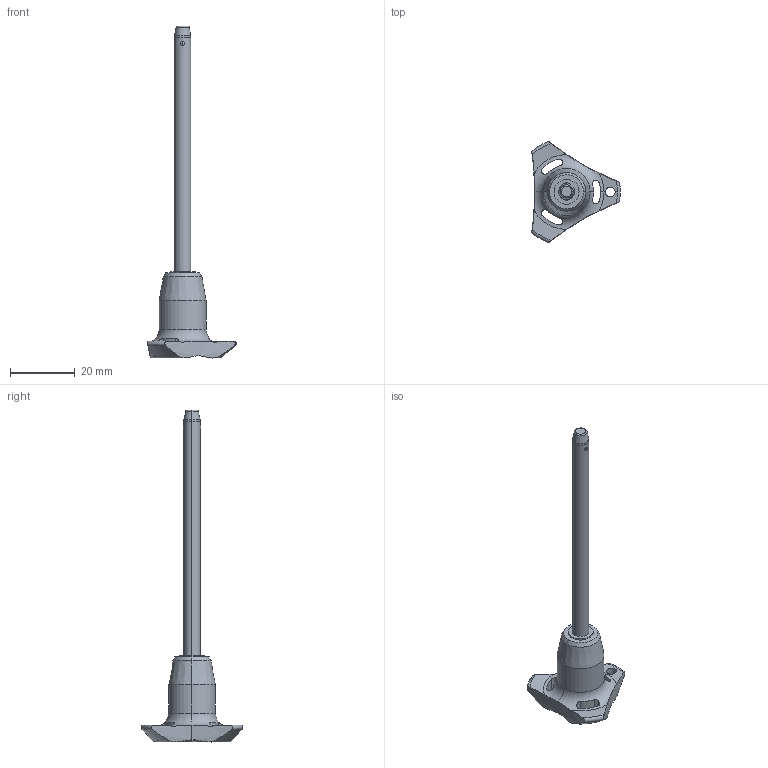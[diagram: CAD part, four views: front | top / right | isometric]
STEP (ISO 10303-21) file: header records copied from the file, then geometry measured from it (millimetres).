
FILE_DESCRIPTION (( 'STEP AP203' ), '1' );
FILE_NAME ('QR1736.M05-070-T.step', '2025-11-13T11:49:04', ( '' ), ( '' ), 'SwSTEP 2.0', 'SolidWorks 2019', '' );
FILE_SCHEMA (( 'CONFIG_CONTROL_DESIGN' ));
Length unit declared in the file: millimetre
Products named in the file (1): QR1736.M05-070-T
Bounding box: 27.4 x 31.31 x 102.7 mm (x, y, z)
Volume: 6242.4 mm3; surface area: 3607.9 mm2
Topology: 1 solids, 1 shells, 69 faces, 187 edges, 119 vertices
Faces by surface type: cylinder 32, cone 14, torus 12, sphere 6, plane 5
Entity records: 2773 total; most frequent: CARTESIAN_POINT 994, ORIENTED_EDGE 374, DIRECTION 348, EDGE_CURVE 187, AXIS2_PLACEMENT_3D 155, VERTEX_POINT 119, CIRCLE 85, EDGE_LOOP 76
